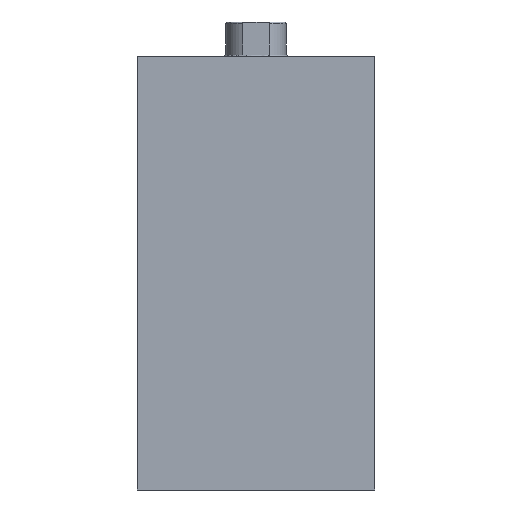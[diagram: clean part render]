
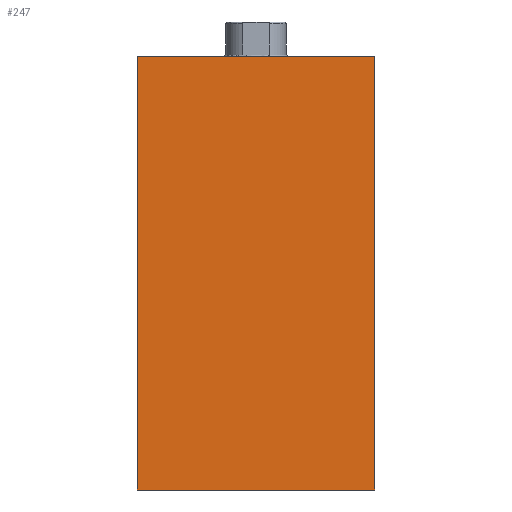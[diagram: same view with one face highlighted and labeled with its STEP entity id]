
A CAD part, left-side view. The second image highlights one B-rep face of the part: STEP entity #247.
In plain terms, the highlighted planar face has unit normal (-1, 0, 0) as drawn and (0, 0, -1) by its records, which use the part's own axes.
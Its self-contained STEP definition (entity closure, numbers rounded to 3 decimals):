
#247 = ADVANCED_FACE( '', ( #338 ), #339, .F. );
#338 = FACE_OUTER_BOUND( '', #554, .T. );
#339 = PLANE( '', #555 );
#554 = EDGE_LOOP( '', ( #789, #790, #791, #792 ) );
#555 = AXIS2_PLACEMENT_3D( '', #793, #794, #795 );
#789 = ORIENTED_EDGE( '', *, *, #1166, .T. );
#790 = ORIENTED_EDGE( '', *, *, #1183, .F. );
#791 = ORIENTED_EDGE( '', *, *, #1178, .F. );
#792 = ORIENTED_EDGE( '', *, *, #1182, .T. );
#793 = CARTESIAN_POINT( '', ( 137., -37.5, -27.5 ) );
#794 = DIRECTION( '', ( 0., 0., 1. ) );
#795 = DIRECTION( '', ( 1., 0., 0. ) );
#1166 = EDGE_CURVE( '', #1267, #1265, #1268, .T. );
#1178 = EDGE_CURVE( '', #1287, #1289, #1290, .T. );
#1182 = EDGE_CURVE( '', #1287, #1267, #1296, .T. );
#1183 = EDGE_CURVE( '', #1289, #1265, #1297, .T. );
#1265 = VERTEX_POINT( '', #1510 );
#1267 = VERTEX_POINT( '', #1513 );
#1268 = LINE( '', #1514, #1515 );
#1287 = VERTEX_POINT( '', #1706 );
#1289 = VERTEX_POINT( '', #1709 );
#1290 = LINE( '', #1710, #1711 );
#1296 = B_SPLINE_CURVE_WITH_KNOTS( '', 1, ( #1784, #1785 ), .UNSPECIFIED., .F., .F., ( 2, 2 ), ( 0., 1. ), .UNSPECIFIED. );
#1297 = B_SPLINE_CURVE_WITH_KNOTS( '', 1, ( #1786, #1787 ), .UNSPECIFIED., .F., .F., ( 2, 2 ), ( 0., 1. ), .UNSPECIFIED. );
#1510 = CARTESIAN_POINT( '', ( 0., 37.5, -27.5 ) );
#1513 = CARTESIAN_POINT( '', ( 0., -37.5, -27.5 ) );
#1514 = CARTESIAN_POINT( '', ( 0., -37.5, -27.5 ) );
#1515 = VECTOR( '', #3890, 1000. );
#1706 = CARTESIAN_POINT( '', ( 137., -37.5, -27.5 ) );
#1709 = CARTESIAN_POINT( '', ( 137., 37.5, -27.5 ) );
#1710 = CARTESIAN_POINT( '', ( 137., -37.5, -27.5 ) );
#1711 = VECTOR( '', #3897, 1000. );
#1784 = CARTESIAN_POINT( '', ( 137., -37.5, -27.5 ) );
#1785 = CARTESIAN_POINT( '', ( 0., -37.5, -27.5 ) );
#1786 = CARTESIAN_POINT( '', ( 137., 37.5, -27.5 ) );
#1787 = CARTESIAN_POINT( '', ( 0., 37.5, -27.5 ) );
#3890 = DIRECTION( '', ( 0., 1., 0. ) );
#3897 = DIRECTION( '', ( 0., 1., 0. ) );
